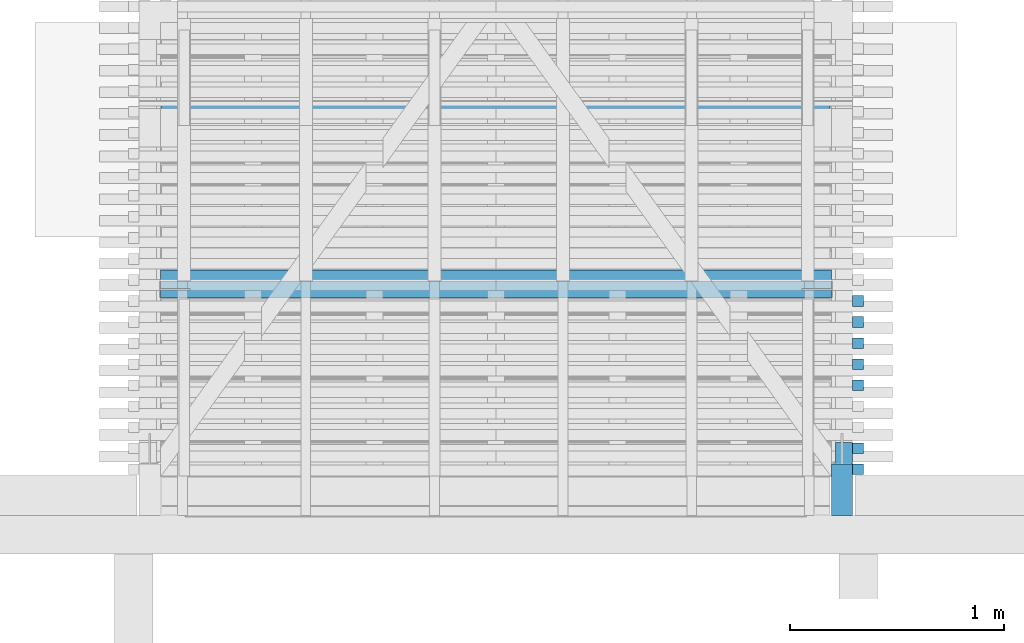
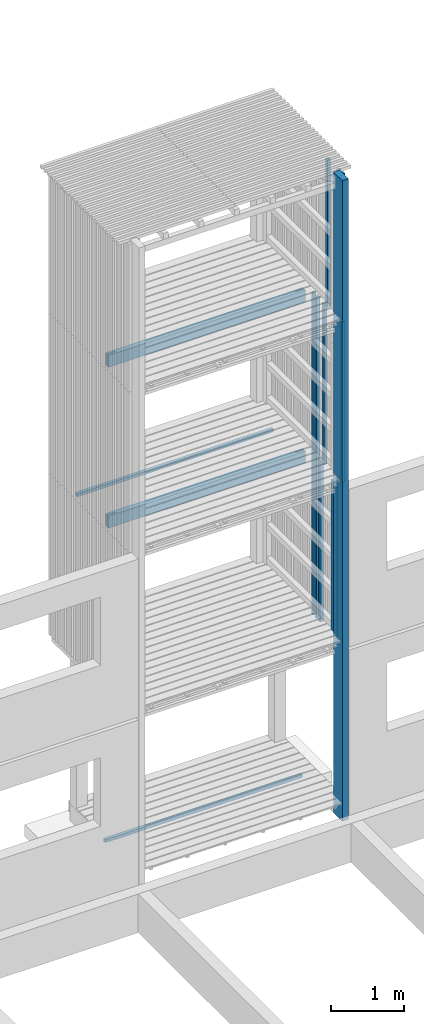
# One storey, part 20 of 182: 17 beams.
"""IFC2X3 building model written with IfcOpenShell, lengths in metres."""

from ifc_helpers import new_model, si_unit, frame, origin, place, context, project, spatial, faceted_brep, element, save


model = new_model("IFC2X3")

# Units and contexts
model_context = context("Model", 3, precision=1e-06, world=origin())
ifc_project = project(units=[si_unit("LENGTHUNIT", "METRE"), si_unit("PLANEANGLEUNIT", "RADIAN")], contexts=[model_context])

# Site, building, storey
site = spatial("IfcSite", under=ifc_project, CompositionType="ELEMENT")
building = spatial("IfcBuilding", under=site, CompositionType="ELEMENT")
storey = spatial("IfcBuildingStorey", under=building, Name="vs", CompositionType="ELEMENT", Elevation=-0.85)

# Beams
placement = place(None, origin())
beam_1_placement = place(placement, frame((6.54419731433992, 11.525077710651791, 5.239999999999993), z_axis=(0.0, 0.0, 1.0), x_axis=(-1.0, -2e-15, 0.0)))
element("IfcBeam", 1, at=beam_1_placement, inside=storey, Name="Sommier", context=model_context, shape_type="Brep", body=[
    faceted_brep([(0.137000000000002, -0.003999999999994, -0.100000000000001), (1e-15, -0.003999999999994, -0.100000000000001), (1e-15, -0.003999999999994, 0.100000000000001), (0.137000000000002, -0.003999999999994, 0.100000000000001), (0.137000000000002, 0.004000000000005, -0.100000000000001), (0.137000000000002, -0.003999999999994, -0.100000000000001), (0.137000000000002, -0.003999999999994, 0.100000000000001), (0.137000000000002, 0.004000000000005, 0.100000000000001), (1e-15, 0.004000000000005, -0.100000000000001), (0.137000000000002, 0.004000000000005, -0.100000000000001), (0.137000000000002, 0.004000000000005, 0.100000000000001), (1e-15, 0.004000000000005, 0.100000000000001), (1e-15, -0.003999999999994, 0.100000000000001), (1e-15, -0.003999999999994, -0.100000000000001), (1e-15, -0.039999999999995, -0.100000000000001), (1e-15, -0.039999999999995, 0.100000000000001), (1e-15, 0.040000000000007, 0.100000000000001), (1e-15, 0.040000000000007, -0.100000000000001), (1e-15, 0.004000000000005, -0.100000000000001), (1e-15, 0.004000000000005, 0.100000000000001), (2.992999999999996, 0.004000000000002, 0.100000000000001), (2.992999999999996, 0.004000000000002, -0.100000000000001), (3.129999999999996, 0.004000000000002, -0.1), (3.129999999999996, 0.004000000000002, 0.100000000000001), (2.992999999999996, -0.004000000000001, 0.100000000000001), (2.992999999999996, -0.004000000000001, -0.100000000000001), (2.992999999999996, 0.004000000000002, -0.100000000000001), (2.992999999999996, 0.004000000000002, 0.100000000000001), (3.129999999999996, -0.004000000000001, 0.100000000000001), (3.129999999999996, -0.004000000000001, -0.100000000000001), (2.992999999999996, -0.004000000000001, -0.100000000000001), (2.992999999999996, -0.004000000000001, 0.100000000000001), (3.129999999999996, 0.004000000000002, 0.100000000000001), (3.129999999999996, 0.004000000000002, -0.1), (3.129999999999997, 0.04, -0.1), (3.129999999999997, 0.04, 0.100000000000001), (3.129999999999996, -0.040000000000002, 0.100000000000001), (3.129999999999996, -0.040000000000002, -0.1), (3.129999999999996, -0.004000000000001, -0.100000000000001), (3.129999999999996, -0.004000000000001, 0.100000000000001), (2.992999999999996, 0.004000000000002, 0.100000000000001), (3.129999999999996, 0.004000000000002, 0.100000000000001), (3.129999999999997, 0.04, 0.100000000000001), (1e-15, 0.040000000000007, 0.100000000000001), (1e-15, 0.004000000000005, 0.100000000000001), (0.137000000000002, 0.004000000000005, 0.100000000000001), (0.137000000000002, -0.003999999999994, 0.100000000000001), (1e-15, -0.003999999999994, 0.100000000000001), (1e-15, -0.039999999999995, 0.100000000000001), (3.129999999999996, -0.040000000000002, 0.100000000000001), (3.129999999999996, -0.004000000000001, 0.100000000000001), (2.992999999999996, -0.004000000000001, 0.100000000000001), (1e-15, -0.039999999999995, -0.100000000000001), (1e-15, -0.003999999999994, -0.100000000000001), (0.137000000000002, -0.003999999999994, -0.100000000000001), (0.137000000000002, 0.004000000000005, -0.100000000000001), (1e-15, 0.004000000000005, -0.100000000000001), (1e-15, 0.040000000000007, -0.100000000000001), (3.129999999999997, 0.04, -0.1), (3.129999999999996, 0.004000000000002, -0.1), (2.992999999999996, 0.004000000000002, -0.100000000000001), (2.992999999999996, -0.004000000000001, -0.100000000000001), (3.129999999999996, -0.004000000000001, -0.100000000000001), (3.129999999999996, -0.040000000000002, -0.1), (1e-15, -0.039999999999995, -0.100000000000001), (3.129999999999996, -0.040000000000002, -0.1), (3.129999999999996, -0.040000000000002, 0.100000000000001), (1e-15, -0.039999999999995, 0.100000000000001), (1e-15, 0.040000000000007, 0.100000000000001), (3.129999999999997, 0.04, 0.100000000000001), (3.129999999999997, 0.04, -0.1), (1e-15, 0.040000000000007, -0.100000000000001)], [[[0, 1, 2, 3]], [[4, 5, 6, 7]], [[8, 9, 10, 11]], [[12, 13, 14, 15]], [[16, 17, 18, 19]], [[20, 21, 22, 23]], [[24, 25, 26, 27]], [[28, 29, 30, 31]], [[32, 33, 34, 35]], [[36, 37, 38, 39]], [[40, 41, 42, 43, 44, 45, 46, 47, 48, 49, 50, 51]], [[52, 53, 54, 55, 56, 57, 58, 59, 60, 61, 62, 63]], [[64, 65, 66, 67]], [[68, 69, 70, 71]]]),
])
beam_2_placement = place(placement, frame((6.54419731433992, 11.525077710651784, 7.93999999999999), z_axis=(0.0, 0.0, 1.0), x_axis=(-1.0, 0.0, 0.0)))
element("IfcBeam", 2, at=beam_2_placement, inside=storey, Name="Sommier", context=model_context, shape_type="Brep", body=[
    faceted_brep([(0.137000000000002, -0.004000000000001, -0.100000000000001), (1e-15, -0.004000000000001, -0.100000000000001), (1e-15, -0.004000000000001, 0.1), (0.137000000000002, -0.004000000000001, 0.1), (0.137000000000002, 0.003999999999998, -0.100000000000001), (0.137000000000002, -0.004000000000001, -0.100000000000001), (0.137000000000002, -0.004000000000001, 0.1), (0.137000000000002, 0.003999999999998, 0.1), (1e-15, 0.003999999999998, -0.100000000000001), (0.137000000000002, 0.003999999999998, -0.100000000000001), (0.137000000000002, 0.003999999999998, 0.1), (1e-15, 0.003999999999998, 0.1), (1e-15, -0.004000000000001, 0.1), (1e-15, -0.004000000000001, -0.100000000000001), (1e-15, -0.040000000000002, -0.100000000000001), (1e-15, -0.040000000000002, 0.1), (1e-15, 0.04, 0.1), (1e-15, 0.04, -0.100000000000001), (1e-15, 0.003999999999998, -0.100000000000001), (1e-15, 0.003999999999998, 0.1), (2.992999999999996, 0.004000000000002, 0.1), (2.992999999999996, 0.004000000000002, -0.100000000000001), (3.129999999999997, 0.004000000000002, -0.100000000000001), (3.129999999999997, 0.004000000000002, 0.1), (2.992999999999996, -0.004000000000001, 0.1), (2.992999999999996, -0.004000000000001, -0.100000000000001), (2.992999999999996, 0.004000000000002, -0.100000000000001), (2.992999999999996, 0.004000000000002, 0.1), (3.129999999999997, -0.004000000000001, 0.1), (3.129999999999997, -0.004000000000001, -0.100000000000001), (2.992999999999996, -0.004000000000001, -0.100000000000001), (2.992999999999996, -0.004000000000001, 0.1), (3.129999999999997, 0.004000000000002, 0.1), (3.129999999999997, 0.004000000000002, -0.100000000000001), (3.129999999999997, 0.040000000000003, -0.100000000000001), (3.129999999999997, 0.040000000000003, 0.1), (3.129999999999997, -0.040000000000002, 0.1), (3.129999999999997, -0.040000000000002, -0.100000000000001), (3.129999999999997, -0.004000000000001, -0.100000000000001), (3.129999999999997, -0.004000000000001, 0.1), (2.992999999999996, 0.004000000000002, 0.1), (3.129999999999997, 0.004000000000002, 0.1), (3.129999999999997, 0.040000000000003, 0.1), (1e-15, 0.04, 0.1), (1e-15, 0.003999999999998, 0.1), (0.137000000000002, 0.003999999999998, 0.1), (0.137000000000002, -0.004000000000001, 0.1), (1e-15, -0.004000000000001, 0.1), (1e-15, -0.040000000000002, 0.1), (3.129999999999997, -0.040000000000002, 0.1), (3.129999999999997, -0.004000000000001, 0.1), (2.992999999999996, -0.004000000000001, 0.1), (1e-15, -0.040000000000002, -0.100000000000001), (1e-15, -0.004000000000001, -0.100000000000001), (0.137000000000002, -0.004000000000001, -0.100000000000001), (0.137000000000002, 0.003999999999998, -0.100000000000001), (1e-15, 0.003999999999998, -0.100000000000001), (1e-15, 0.04, -0.100000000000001), (3.129999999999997, 0.040000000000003, -0.100000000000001), (3.129999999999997, 0.004000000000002, -0.100000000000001), (2.992999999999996, 0.004000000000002, -0.100000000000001), (2.992999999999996, -0.004000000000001, -0.100000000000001), (3.129999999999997, -0.004000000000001, -0.100000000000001), (3.129999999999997, -0.040000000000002, -0.100000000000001), (1e-15, -0.040000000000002, -0.100000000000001), (3.129999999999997, -0.040000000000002, -0.100000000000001), (3.129999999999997, -0.040000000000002, 0.1), (1e-15, -0.040000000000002, 0.1), (1e-15, 0.04, 0.1), (3.129999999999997, 0.040000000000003, 0.1), (3.129999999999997, 0.040000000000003, -0.100000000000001), (1e-15, 0.04, -0.100000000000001)], [[[0, 1, 2, 3]], [[4, 5, 6, 7]], [[8, 9, 10, 11]], [[12, 13, 14, 15]], [[16, 17, 18, 19]], [[20, 21, 22, 23]], [[24, 25, 26, 27]], [[28, 29, 30, 31]], [[32, 33, 34, 35]], [[36, 37, 38, 39]], [[40, 41, 42, 43, 44, 45, 46, 47, 48, 49, 50, 51]], [[52, 53, 54, 55, 56, 57, 58, 59, 60, 61, 62, 63]], [[64, 65, 66, 67]], [[68, 69, 70, 71]]]),
])
beam_3_placement = place(placement, frame((3.414197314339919, 11.59007771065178, -0.164999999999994), z_axis=(0.0, 0.0, 1.0), x_axis=(1.0, 0.0, 0.0)))
element("IfcBeam", 3, at=beam_3_placement, inside=storey, Name="Ligneul", context=model_context, shape_type="Brep", body=[
    faceted_brep([(4e-15, -0.024999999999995, 0.025), (4e-15, -0.024999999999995, -0.025), (3.129999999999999, -0.024999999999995, -0.025), (3.129999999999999, -0.024999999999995, 0.025), (4e-15, 0.025000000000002, 0.025), (4e-15, -0.024999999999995, 0.025), (3.129999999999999, -0.024999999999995, 0.025), (3.129999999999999, 0.025000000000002, 0.025), (4e-15, -0.024999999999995, 0.025), (4e-15, 0.025000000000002, 0.025), (4e-15, 0.025000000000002, -0.025), (4e-15, -0.024999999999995, -0.025), (4e-15, 0.025000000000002, -0.025), (4e-15, 0.025000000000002, 0.025), (3.129999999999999, 0.025000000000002, 0.025), (3.129999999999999, 0.025000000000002, -0.025), (3.129999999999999, -0.024999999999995, -0.025), (4e-15, -0.024999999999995, -0.025), (4e-15, 0.025000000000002, -0.025), (3.129999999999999, 0.025000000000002, -0.025), (3.129999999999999, -0.024999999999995, 0.025), (3.129999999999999, -0.024999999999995, -0.025), (3.129999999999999, 0.025000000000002, -0.025), (3.129999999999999, 0.025000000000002, 0.025)], [[[0, 1, 2, 3]], [[4, 5, 6, 7]], [[8, 9, 10, 11]], [[12, 13, 14, 15]], [[16, 17, 18, 19]], [[20, 21, 22, 23]]]),
])
beam_4_placement = place(placement, frame((6.539197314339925, 12.371744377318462, 5.167399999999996), z_axis=(0.0, 0.0, 1.0), x_axis=(-1.0, 0.0, 0.0)))
element("IfcBeam", 4, at=beam_4_placement, inside=storey, Name="Bardage", context=model_context, shape_type="Brep", body=[
    faceted_brep([(3.120000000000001, 0.025000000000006, 0.024999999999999), (3.120000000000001, -0.024999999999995, 0.024999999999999), (3.120000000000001, -0.024999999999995, -0.025), (3.120000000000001, 0.025000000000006, -0.025), (-3e-15, -0.024999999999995, 0.024999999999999), (-3e-15, 0.025000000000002, 0.024999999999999), (-3e-15, 0.025000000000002, -0.025), (-3e-15, -0.024999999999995, -0.025), (-3e-15, -0.024999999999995, -0.025), (-3e-15, 0.025000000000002, -0.025), (3.120000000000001, 0.025000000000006, -0.025), (3.120000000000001, -0.024999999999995, -0.025), (3.120000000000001, -0.024999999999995, -0.025), (3.120000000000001, -0.024999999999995, 0.024999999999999), (-3e-15, -0.024999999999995, 0.024999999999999), (-3e-15, -0.024999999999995, -0.025), (3.120000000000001, 0.025000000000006, 0.024999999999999), (3.120000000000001, 0.025000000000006, -0.025), (-3e-15, 0.025000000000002, -0.025), (-3e-15, 0.025000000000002, 0.024999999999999), (3.120000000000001, -0.024999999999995, 0.024999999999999), (3.120000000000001, 0.025000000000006, 0.024999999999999), (-3e-15, 0.025000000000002, 0.024999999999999), (-3e-15, -0.024999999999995, 0.024999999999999)], [[[0, 1, 2, 3]], [[4, 5, 6, 7]], [[8, 9, 10, 11]], [[12, 13, 14, 15]], [[16, 17, 18, 19]], [[20, 21, 22, 23]]]),
])
beam_5_placement = place(placement, frame((6.59419731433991, 10.590077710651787, 10.494999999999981), z_axis=(0.0, 1.0, 0.0), x_axis=(0.0, 0.0, -1.0)))
element("IfcBeam", 5, at=beam_5_placement, inside=storey, Name="Poteau", context=model_context, shape_type="Brep", body=[
    faceted_brep([(0.0, -0.050000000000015, -0.120000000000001), (10.754999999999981, -0.050000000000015, -0.120000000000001), (10.754999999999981, -0.050000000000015, 0.120000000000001), (0.0, -0.050000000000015, 0.120000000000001), (0.0, 0.049999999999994, -0.120000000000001), (10.754999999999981, 0.049999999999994, -0.120000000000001), (10.754999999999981, -0.050000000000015, -0.120000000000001), (0.0, -0.050000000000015, -0.120000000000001), (10.754999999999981, -0.050000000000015, 0.120000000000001), (10.754999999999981, -0.050000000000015, -0.120000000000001), (10.754999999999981, 0.049999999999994, -0.120000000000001), (10.754999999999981, 0.049999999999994, 0.120000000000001), (0.0, -0.050000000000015, 0.120000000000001), (10.754999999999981, -0.050000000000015, 0.120000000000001), (10.754999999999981, 0.049999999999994, 0.120000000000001), (0.0, 0.049999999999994, 0.120000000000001), (0.0, 0.049999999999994, 0.120000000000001), (10.754999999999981, 0.049999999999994, 0.120000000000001), (10.754999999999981, 0.049999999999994, -0.120000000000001), (0.0, 0.049999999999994, -0.120000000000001), (0.0, 0.049999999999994, 0.120000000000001), (0.0, 0.049999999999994, -0.120000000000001), (0.0, -0.050000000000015, -0.120000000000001), (0.0, -0.050000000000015, 0.120000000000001)], [[[0, 1, 2, 3]], [[4, 5, 6, 7]], [[8, 9, 10, 11]], [[12, 13, 14, 15]], [[16, 17, 18, 19]], [[20, 21, 22, 23]]]),
])
beam_6_placement = place(placement, frame((6.66919731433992, 11.07780498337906, 7.974999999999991), z_axis=(-1.0, 0.0, 0.0), x_axis=(0.0, 0.0, 1.0)))
element("IfcBeam", 6, at=beam_6_placement, inside=storey, Name="Bardage", context=model_context, shape_type="Brep", body=[
    faceted_brep([(2.479999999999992, -0.024999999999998, 0.024999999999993), (2.479999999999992, -0.024999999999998, -0.025000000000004), (2.479999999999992, 0.024999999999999, -0.025000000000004), (2.479999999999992, 0.024999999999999, 0.024999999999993), (0.0, 0.024999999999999, 0.024999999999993), (0.0, -0.024999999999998, 0.024999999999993), (2.479999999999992, -0.024999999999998, 0.024999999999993), (2.479999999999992, 0.024999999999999, 0.024999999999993), (0.0, -0.024999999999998, 0.024999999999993), (0.0, 0.024999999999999, 0.024999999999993), (0.0, 0.024999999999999, -0.025000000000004), (0.0, -0.024999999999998, -0.025000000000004), (0.0, 0.024999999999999, -0.025000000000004), (0.0, 0.024999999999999, 0.024999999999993), (2.479999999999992, 0.024999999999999, 0.024999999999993), (2.479999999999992, 0.024999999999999, -0.025000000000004), (0.0, -0.024999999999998, -0.025000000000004), (0.0, 0.024999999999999, -0.025000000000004), (2.479999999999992, 0.024999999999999, -0.025000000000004), (2.479999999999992, -0.024999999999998, -0.025000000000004), (2.479999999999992, -0.024999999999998, 0.024999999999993), (0.0, -0.024999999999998, 0.024999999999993), (0.0, -0.024999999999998, -0.025000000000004), (2.479999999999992, -0.024999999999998, -0.025000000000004)], [[[0, 1, 2, 3]], [[4, 5, 6, 7]], [[8, 9, 10, 11]], [[12, 13, 14, 15]], [[16, 17, 18, 19]], [[20, 21, 22, 23]]]),
])
beam_7_placement = place(placement, frame((6.66919731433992, 10.78325952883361, 2.575000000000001), z_axis=(-1.0, 0.0, 0.0), x_axis=(0.0, 0.0, 1.0)))
element("IfcBeam", 7, at=beam_7_placement, inside=storey, Name="Bardage", context=model_context, shape_type="Brep", body=[
    faceted_brep([(0.0, -0.025000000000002, 0.024999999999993), (0.0, 0.024999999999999, 0.024999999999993), (0.0, 0.024999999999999, -0.025000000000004), (0.0, -0.025000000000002, -0.025000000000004), (2.699961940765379, 0.024999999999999, -0.025000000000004), (2.699961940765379, 0.024999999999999, 0.024999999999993), (2.699961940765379, -0.025000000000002, 0.024999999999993), (2.699961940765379, -0.025000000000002, -0.025000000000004), (0.0, -0.025000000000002, -0.025000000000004), (0.0, 0.024999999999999, -0.025000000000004), (2.699961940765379, 0.024999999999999, -0.025000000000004), (2.699961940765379, -0.025000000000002, -0.025000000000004), (2.699961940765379, 0.024999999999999, -0.025000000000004), (0.0, 0.024999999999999, -0.025000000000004), (0.0, 0.024999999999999, 0.024999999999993), (2.699961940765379, 0.024999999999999, 0.024999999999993), (2.699961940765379, 0.024999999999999, 0.024999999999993), (0.0, 0.024999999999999, 0.024999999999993), (0.0, -0.025000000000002, 0.024999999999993), (2.699961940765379, -0.025000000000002, 0.024999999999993), (2.699961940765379, -0.025000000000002, 0.024999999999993), (0.0, -0.025000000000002, 0.024999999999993), (0.0, -0.025000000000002, -0.025000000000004), (2.699961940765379, -0.025000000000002, -0.025000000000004)], [[[0, 1, 2, 3]], [[4, 5, 6, 7]], [[8, 9, 10, 11]], [[12, 13, 14, 15]], [[16, 17, 18, 19]], [[20, 21, 22, 23]]]),
])
beam_8_placement = place(placement, frame((6.66919731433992, 11.47053225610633, 5.274999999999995), z_axis=(-1.0, 0.0, 0.0), x_axis=(0.0, 0.0, 1.0)))
element("IfcBeam", 8, at=beam_8_placement, inside=storey, Name="Bardage", context=model_context, shape_type="Brep", body=[
    faceted_brep([(1e-15, -0.025000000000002, 0.024999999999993), (1e-15, 0.025000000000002, 0.024999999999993), (1e-15, 0.025000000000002, -0.025000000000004), (1e-15, -0.025000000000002, -0.025000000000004), (2.699999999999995, -0.025000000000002, -0.025000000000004), (2.699999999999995, 0.025000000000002, -0.025000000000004), (2.699999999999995, 0.025000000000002, 0.024999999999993), (2.699999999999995, -0.025000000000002, 0.024999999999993), (1e-15, -0.025000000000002, 0.024999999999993), (1e-15, -0.025000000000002, -0.025000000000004), (2.699999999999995, -0.025000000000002, -0.025000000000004), (2.699999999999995, -0.025000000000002, 0.024999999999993), (2.699999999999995, -0.025000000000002, -0.025000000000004), (1e-15, -0.025000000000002, -0.025000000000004), (1e-15, 0.025000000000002, -0.025000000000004), (2.699999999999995, 0.025000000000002, -0.025000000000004), (2.699999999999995, 0.025000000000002, -0.025000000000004), (1e-15, 0.025000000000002, -0.025000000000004), (1e-15, 0.025000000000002, 0.024999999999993), (2.699999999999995, 0.025000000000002, 0.024999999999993), (2.699999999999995, 0.025000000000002, 0.024999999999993), (1e-15, 0.025000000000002, 0.024999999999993), (1e-15, -0.025000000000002, 0.024999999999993), (2.699999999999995, -0.025000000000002, 0.024999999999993)], [[[0, 1, 2, 3]], [[4, 5, 6, 7]], [[8, 9, 10, 11]], [[12, 13, 14, 15]], [[16, 17, 18, 19]], [[20, 21, 22, 23]]]),
])
beam_9_placement = place(placement, frame((6.604197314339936, 10.760077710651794, 2.746999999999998), z_axis=(0.0, 1.0, 0.0), x_axis=(0.0, 0.0, 1.0)))
element("IfcBeam", 9, at=beam_9_placement, inside=storey, Name="Support bardage", context=model_context, shape_type="Brep", body=[
    faceted_brep([(2.527961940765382, 0.039999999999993, -0.050000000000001), (2.527961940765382, 0.039999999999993, 0.05), (2.527961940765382, -0.04000000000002, 0.05), (2.527961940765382, -0.04000000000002, -0.050000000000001), (0.0, -0.04000000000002, -0.050000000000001), (0.0, 0.039999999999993, -0.050000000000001), (2.527961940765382, 0.039999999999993, -0.050000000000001), (2.527961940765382, -0.04000000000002, -0.050000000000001), (0.0, 0.039999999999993, -0.050000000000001), (0.0, -0.04000000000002, -0.050000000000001), (0.0, -0.04000000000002, 0.05), (0.0, 0.039999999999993, 0.05), (2.527961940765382, 0.039999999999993, -0.050000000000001), (0.0, 0.039999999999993, -0.050000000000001), (0.0, 0.039999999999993, 0.05), (2.527961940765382, 0.039999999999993, 0.05), (2.527961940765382, 0.039999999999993, 0.05), (0.0, 0.039999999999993, 0.05), (0.0, -0.04000000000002, 0.05), (2.527961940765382, -0.04000000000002, 0.05), (2.527961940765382, -0.04000000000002, 0.05), (0.0, -0.04000000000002, 0.05), (0.0, -0.04000000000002, -0.050000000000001), (2.527961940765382, -0.04000000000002, -0.050000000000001)], [[[0, 1, 2, 3]], [[4, 5, 6, 7]], [[8, 9, 10, 11]], [[12, 13, 14, 15]], [[16, 17, 18, 19]], [[20, 21, 22, 23]]]),
])
beam_10_placement = place(placement, frame((6.66919731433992, 10.685077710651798, 7.974999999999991), z_axis=(-1.0, 0.0, 0.0), x_axis=(0.0, 0.0, 1.0)))
element("IfcBeam", 10, at=beam_10_placement, inside=storey, Name="Bardage", context=model_context, shape_type="Brep", body=[
    faceted_brep([(2.479999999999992, -0.025000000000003, 0.024999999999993), (2.479999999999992, -0.025000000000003, -0.025000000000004), (2.479999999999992, 0.024999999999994, -0.025000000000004), (2.479999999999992, 0.024999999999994, 0.024999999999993), (0.0, 0.024999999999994, 0.024999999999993), (0.0, -0.025000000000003, 0.024999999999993), (2.479999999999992, -0.025000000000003, 0.024999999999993), (2.479999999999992, 0.024999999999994, 0.024999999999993), (0.0, -0.025000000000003, 0.024999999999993), (0.0, 0.024999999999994, 0.024999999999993), (0.0, 0.024999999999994, -0.025000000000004), (0.0, -0.025000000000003, -0.025000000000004), (0.0, 0.024999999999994, -0.025000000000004), (0.0, 0.024999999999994, 0.024999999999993), (2.479999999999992, 0.024999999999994, 0.024999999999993), (2.479999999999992, 0.024999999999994, -0.025000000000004), (0.0, -0.025000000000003, -0.025000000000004), (0.0, 0.024999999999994, -0.025000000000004), (2.479999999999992, 0.024999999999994, -0.025000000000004), (2.479999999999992, -0.025000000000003, -0.025000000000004), (2.479999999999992, -0.025000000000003, 0.024999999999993), (0.0, -0.025000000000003, 0.024999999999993), (0.0, -0.025000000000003, -0.025000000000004), (2.479999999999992, -0.025000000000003, -0.025000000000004)], [[[0, 1, 2, 3]], [[4, 5, 6, 7]], [[8, 9, 10, 11]], [[12, 13, 14, 15]], [[16, 17, 18, 19]], [[20, 21, 22, 23]]]),
])
beam_11_placement = place(placement, frame((6.66919731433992, 11.175986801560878, 5.274999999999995), z_axis=(-1.0, 0.0, 0.0), x_axis=(0.0, 0.0, 1.0)))
element("IfcBeam", 11, at=beam_11_placement, inside=storey, Name="Bardage", context=model_context, shape_type="Brep", body=[
    faceted_brep([(1e-15, -0.025000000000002, 0.024999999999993), (1e-15, 0.024999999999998, 0.024999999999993), (1e-15, 0.024999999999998, -0.025000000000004), (1e-15, -0.025000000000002, -0.025000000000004), (2.699999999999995, -0.025000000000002, -0.025000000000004), (2.699999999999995, 0.024999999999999, -0.025000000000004), (2.699999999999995, 0.024999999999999, 0.024999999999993), (2.699999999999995, -0.025000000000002, 0.024999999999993), (1e-15, -0.025000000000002, 0.024999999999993), (1e-15, -0.025000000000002, -0.025000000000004), (2.699999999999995, -0.025000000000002, -0.025000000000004), (2.699999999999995, -0.025000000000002, 0.024999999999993), (2.699999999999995, -0.025000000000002, -0.025000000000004), (1e-15, -0.025000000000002, -0.025000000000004), (1e-15, 0.024999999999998, -0.025000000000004), (2.699999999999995, 0.024999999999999, -0.025000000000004), (2.699999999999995, 0.024999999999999, -0.025000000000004), (1e-15, 0.024999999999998, -0.025000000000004), (1e-15, 0.024999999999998, 0.024999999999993), (2.699999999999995, 0.024999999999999, 0.024999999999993), (2.699999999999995, 0.024999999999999, 0.024999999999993), (1e-15, 0.024999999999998, 0.024999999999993), (1e-15, -0.025000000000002, 0.024999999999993), (2.699999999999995, -0.025000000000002, 0.024999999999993)], [[[0, 1, 2, 3]], [[4, 5, 6, 7]], [[8, 9, 10, 11]], [[12, 13, 14, 15]], [[16, 17, 18, 19]], [[20, 21, 22, 23]]]),
])
beam_12_placement = place(placement, frame((6.66919731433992, 10.685077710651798, 5.274999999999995), z_axis=(-1.0, 0.0, 0.0), x_axis=(0.0, 0.0, 1.0)))
element("IfcBeam", 12, at=beam_12_placement, inside=storey, Name="Bardage", context=model_context, shape_type="Brep", body=[
    faceted_brep([(1e-15, -0.025000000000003, 0.024999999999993), (1e-15, 0.024999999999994, 0.024999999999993), (1e-15, 0.024999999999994, -0.025000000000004), (1e-15, -0.025000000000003, -0.025000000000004), (2.699999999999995, -0.025000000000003, -0.025000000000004), (2.699999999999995, 0.024999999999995, -0.025000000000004), (2.699999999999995, 0.024999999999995, 0.024999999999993), (2.699999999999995, -0.025000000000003, 0.024999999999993), (1e-15, -0.025000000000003, 0.024999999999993), (1e-15, -0.025000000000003, -0.025000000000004), (2.699999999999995, -0.025000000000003, -0.025000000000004), (2.699999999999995, -0.025000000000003, 0.024999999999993), (2.699999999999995, -0.025000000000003, -0.025000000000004), (1e-15, -0.025000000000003, -0.025000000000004), (1e-15, 0.024999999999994, -0.025000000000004), (2.699999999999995, 0.024999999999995, -0.025000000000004), (2.699999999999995, 0.024999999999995, -0.025000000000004), (1e-15, 0.024999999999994, -0.025000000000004), (1e-15, 0.024999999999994, 0.024999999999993), (2.699999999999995, 0.024999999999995, 0.024999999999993), (2.699999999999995, 0.024999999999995, 0.024999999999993), (1e-15, 0.024999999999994, 0.024999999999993), (1e-15, -0.025000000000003, 0.024999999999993), (2.699999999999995, -0.025000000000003, 0.024999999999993)], [[[0, 1, 2, 3]], [[4, 5, 6, 7]], [[8, 9, 10, 11]], [[12, 13, 14, 15]], [[16, 17, 18, 19]], [[20, 21, 22, 23]]]),
])
beam_13_placement = place(placement, frame((6.66919731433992, 10.78325952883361, 7.974999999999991), z_axis=(-1.0, 0.0, 0.0), x_axis=(0.0, 0.0, 1.0)))
element("IfcBeam", 13, at=beam_13_placement, inside=storey, Name="Bardage", context=model_context, shape_type="Brep", body=[
    faceted_brep([(2.479999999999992, -0.025000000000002, 0.024999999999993), (2.479999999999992, -0.025000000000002, -0.025000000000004), (2.479999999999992, 0.024999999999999, -0.025000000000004), (2.479999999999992, 0.024999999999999, 0.024999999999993), (0.0, 0.024999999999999, 0.024999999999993), (0.0, -0.025000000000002, 0.024999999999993), (2.479999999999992, -0.025000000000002, 0.024999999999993), (2.479999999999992, 0.024999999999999, 0.024999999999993), (0.0, -0.025000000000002, 0.024999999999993), (0.0, 0.024999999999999, 0.024999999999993), (0.0, 0.024999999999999, -0.025000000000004), (0.0, -0.025000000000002, -0.025000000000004), (0.0, 0.024999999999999, -0.025000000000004), (0.0, 0.024999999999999, 0.024999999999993), (2.479999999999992, 0.024999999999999, 0.024999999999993), (2.479999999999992, 0.024999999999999, -0.025000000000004), (0.0, -0.025000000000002, -0.025000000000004), (0.0, 0.024999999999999, -0.025000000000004), (2.479999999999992, 0.024999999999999, -0.025000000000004), (2.479999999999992, -0.025000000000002, -0.025000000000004), (2.479999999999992, -0.025000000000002, 0.024999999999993), (0.0, -0.025000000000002, 0.024999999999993), (0.0, -0.025000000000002, -0.025000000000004), (2.479999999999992, -0.025000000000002, -0.025000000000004)], [[[0, 1, 2, 3]], [[4, 5, 6, 7]], [[8, 9, 10, 11]], [[12, 13, 14, 15]], [[16, 17, 18, 19]], [[20, 21, 22, 23]]]),
])
beam_14_placement = place(placement, frame((6.66919731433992, 11.274168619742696, 2.575000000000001), z_axis=(-1.0, 0.0, 0.0), x_axis=(0.0, 0.0, 1.0)))
element("IfcBeam", 14, at=beam_14_placement, inside=storey, Name="Bardage", context=model_context, shape_type="Brep", body=[
    faceted_brep([(0.0, -0.025000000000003, 0.024999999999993), (0.0, 0.024999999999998, 0.024999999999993), (0.0, 0.024999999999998, -0.025000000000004), (0.0, -0.025000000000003, -0.025000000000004), (2.699961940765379, 0.024999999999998, -0.025000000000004), (2.699961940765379, 0.024999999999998, 0.024999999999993), (2.699961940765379, -0.025000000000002, 0.024999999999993), (2.699961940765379, -0.025000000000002, -0.025000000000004), (0.0, -0.025000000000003, -0.025000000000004), (0.0, 0.024999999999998, -0.025000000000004), (2.699961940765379, 0.024999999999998, -0.025000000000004), (2.699961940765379, -0.025000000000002, -0.025000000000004), (2.699961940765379, 0.024999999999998, -0.025000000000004), (0.0, 0.024999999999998, -0.025000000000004), (0.0, 0.024999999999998, 0.024999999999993), (2.699961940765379, 0.024999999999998, 0.024999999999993), (2.699961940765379, 0.024999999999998, 0.024999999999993), (0.0, 0.024999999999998, 0.024999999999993), (0.0, -0.025000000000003, 0.024999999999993), (2.699961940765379, -0.025000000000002, 0.024999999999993), (2.699961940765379, -0.025000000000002, 0.024999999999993), (0.0, -0.025000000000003, 0.024999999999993), (0.0, -0.025000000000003, -0.025000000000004), (2.699961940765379, -0.025000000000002, -0.025000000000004)], [[[0, 1, 2, 3]], [[4, 5, 6, 7]], [[8, 9, 10, 11]], [[12, 13, 14, 15]], [[16, 17, 18, 19]], [[20, 21, 22, 23]]]),
])
beam_15_placement = place(placement, frame((6.66919731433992, 11.47053225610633, 2.575000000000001), z_axis=(-1.0, 0.0, 0.0), x_axis=(0.0, 0.0, 1.0)))
element("IfcBeam", 15, at=beam_15_placement, inside=storey, Name="Bardage", context=model_context, shape_type="Brep", body=[
    faceted_brep([(0.0, -0.025000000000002, 0.024999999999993), (0.0, 0.025000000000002, 0.024999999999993), (0.0, 0.025000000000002, -0.025000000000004), (0.0, -0.025000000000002, -0.025000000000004), (2.699961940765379, 0.025000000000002, -0.025000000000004), (2.699961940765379, 0.025000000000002, 0.024999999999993), (2.699961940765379, -0.025000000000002, 0.024999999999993), (2.699961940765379, -0.025000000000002, -0.025000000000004), (0.0, -0.025000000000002, -0.025000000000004), (0.0, 0.025000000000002, -0.025000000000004), (2.699961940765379, 0.025000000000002, -0.025000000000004), (2.699961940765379, -0.025000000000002, -0.025000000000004), (2.699961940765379, 0.025000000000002, -0.025000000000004), (0.0, 0.025000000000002, -0.025000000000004), (0.0, 0.025000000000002, 0.024999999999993), (2.699961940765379, 0.025000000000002, 0.024999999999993), (2.699961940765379, 0.025000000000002, 0.024999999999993), (0.0, 0.025000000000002, 0.024999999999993), (0.0, -0.025000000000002, 0.024999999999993), (2.699961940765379, -0.025000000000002, 0.024999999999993), (2.699961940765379, -0.025000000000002, 0.024999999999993), (0.0, -0.025000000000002, 0.024999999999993), (0.0, -0.025000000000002, -0.025000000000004), (2.699961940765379, -0.025000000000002, -0.025000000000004)], [[[0, 1, 2, 3]], [[4, 5, 6, 7]], [[8, 9, 10, 11]], [[12, 13, 14, 15]], [[16, 17, 18, 19]], [[20, 21, 22, 23]]]),
])
beam_16_placement = place(placement, frame((6.66919731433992, 11.372350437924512, 2.575000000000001), z_axis=(-1.0, 0.0, 0.0), x_axis=(0.0, 0.0, 1.0)))
element("IfcBeam", 16, at=beam_16_placement, inside=storey, Name="Bardage", context=model_context, shape_type="Brep", body=[
    faceted_brep([(0.0, -0.024999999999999, 0.024999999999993), (0.0, 0.024999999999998, 0.024999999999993), (0.0, 0.024999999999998, -0.025000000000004), (0.0, -0.024999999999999, -0.025000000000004), (2.699961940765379, 0.025000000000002, -0.025000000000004), (2.699961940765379, 0.025000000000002, 0.024999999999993), (2.699961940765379, -0.024999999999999, 0.024999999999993), (2.699961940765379, -0.024999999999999, -0.025000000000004), (0.0, -0.024999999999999, -0.025000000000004), (0.0, 0.024999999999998, -0.025000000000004), (2.699961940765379, 0.025000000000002, -0.025000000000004), (2.699961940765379, -0.024999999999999, -0.025000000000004), (2.699961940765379, 0.025000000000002, -0.025000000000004), (0.0, 0.024999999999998, -0.025000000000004), (0.0, 0.024999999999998, 0.024999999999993), (2.699961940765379, 0.025000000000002, 0.024999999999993), (2.699961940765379, 0.025000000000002, 0.024999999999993), (0.0, 0.024999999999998, 0.024999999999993), (0.0, -0.024999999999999, 0.024999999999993), (2.699961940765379, -0.024999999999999, 0.024999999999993), (2.699961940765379, -0.024999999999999, 0.024999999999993), (0.0, -0.024999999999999, 0.024999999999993), (0.0, -0.024999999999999, -0.025000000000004), (2.699961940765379, -0.024999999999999, -0.025000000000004)], [[[0, 1, 2, 3]], [[4, 5, 6, 7]], [[8, 9, 10, 11]], [[12, 13, 14, 15]], [[16, 17, 18, 19]], [[20, 21, 22, 23]]]),
])
beam_17_placement = place(placement, frame((6.66919731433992, 11.372350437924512, 5.274999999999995), z_axis=(-1.0, 0.0, 0.0), x_axis=(0.0, 0.0, 1.0)))
element("IfcBeam", 17, at=beam_17_placement, inside=storey, Name="Bardage", context=model_context, shape_type="Brep", body=[
    faceted_brep([(1e-15, -0.024999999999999, 0.024999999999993), (1e-15, 0.024999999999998, 0.024999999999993), (1e-15, 0.024999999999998, -0.025000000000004), (1e-15, -0.024999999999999, -0.025000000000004), (2.699999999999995, -0.024999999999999, -0.025000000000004), (2.699999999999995, 0.024999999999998, -0.025000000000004), (2.699999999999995, 0.024999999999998, 0.024999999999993), (2.699999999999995, -0.024999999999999, 0.024999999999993), (1e-15, -0.024999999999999, 0.024999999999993), (1e-15, -0.024999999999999, -0.025000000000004), (2.699999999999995, -0.024999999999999, -0.025000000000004), (2.699999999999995, -0.024999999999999, 0.024999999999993), (2.699999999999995, -0.024999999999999, -0.025000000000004), (1e-15, -0.024999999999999, -0.025000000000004), (1e-15, 0.024999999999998, -0.025000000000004), (2.699999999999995, 0.024999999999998, -0.025000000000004), (2.699999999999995, 0.024999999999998, -0.025000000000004), (1e-15, 0.024999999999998, -0.025000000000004), (1e-15, 0.024999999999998, 0.024999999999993), (2.699999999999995, 0.024999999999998, 0.024999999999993), (2.699999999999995, 0.024999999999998, 0.024999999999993), (1e-15, 0.024999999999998, 0.024999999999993), (1e-15, -0.024999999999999, 0.024999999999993), (2.699999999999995, -0.024999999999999, 0.024999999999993)], [[[0, 1, 2, 3]], [[4, 5, 6, 7]], [[8, 9, 10, 11]], [[12, 13, 14, 15]], [[16, 17, 18, 19]], [[20, 21, 22, 23]]]),
])

save(model, "model.ifc")
